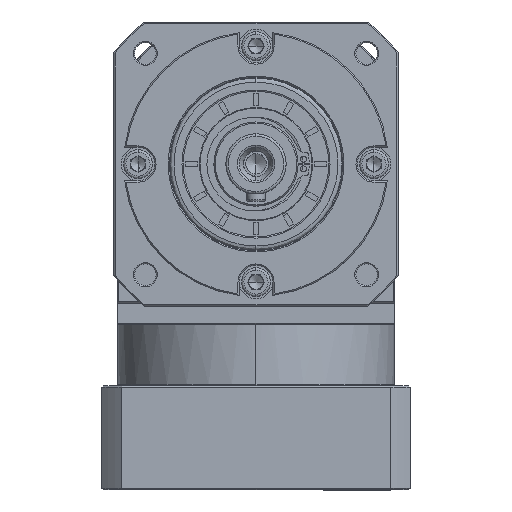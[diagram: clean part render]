
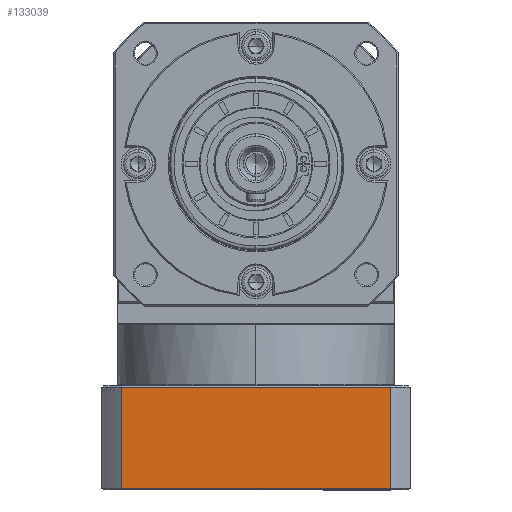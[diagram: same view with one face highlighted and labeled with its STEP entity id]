
A CAD part, top view. The second image highlights one B-rep face of the part: STEP entity #133039.
In plain terms, the highlighted planar face has unit normal (0, 0, 1).
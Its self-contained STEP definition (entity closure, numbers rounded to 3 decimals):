
#10216 = EDGE_CURVE ( 'NONE', #152064, #128707, #89542, .T. ) ;
#11703 = VECTOR ( 'NONE', #163240, 1000. ) ;
#13838 = VECTOR ( 'NONE', #62351, 1000. ) ;
#16666 = CARTESIAN_POINT ( 'NONE',  ( -287.362, -169.837, 71.858 ) ) ;
#33294 = FACE_OUTER_BOUND ( 'NONE', #114718, .T. ) ;
#36742 = VERTEX_POINT ( 'NONE', #146444 ) ;
#38493 = PLANE ( 'NONE',  #156545 ) ;
#40748 = DIRECTION ( 'NONE',  ( 0., 0., -1. ) ) ;
#44070 = VECTOR ( 'NONE', #123887, 1000. ) ;
#51472 = CARTESIAN_POINT ( 'NONE',  ( -279.299, -169.837, 71.858 ) ) ;
#62351 = DIRECTION ( 'NONE',  ( 0., 1., 0. ) ) ;
#64854 = DIRECTION ( 'NONE',  ( 1., 0., 0. ) ) ;
#65598 = ORIENTED_EDGE ( 'NONE', *, *, #147586, .F. ) ;
#83846 = CARTESIAN_POINT ( 'NONE',  ( -167.425, 125.577, 71.858 ) ) ;
#89045 = VECTOR ( 'NONE', #64854, 1000. ) ;
#89154 = ORIENTED_EDGE ( 'NONE', *, *, #147333, .F. ) ;
#89542 = LINE ( 'NONE', #51472, #13838 ) ;
#96973 = CARTESIAN_POINT ( 'NONE',  ( -279.299, -127.337, 71.858 ) ) ;
#101978 = EDGE_CURVE ( 'NONE', #36742, #152064, #122202, .T. ) ;
#105942 = DIRECTION ( 'NONE',  ( -1., 0., 0. ) ) ;
#111184 = CARTESIAN_POINT ( 'NONE',  ( -167.425, -127.337, 71.858 ) ) ;
#114718 = EDGE_LOOP ( 'NONE', ( #89154, #65598, #142482, #133824 ) ) ;
#122202 = LINE ( 'NONE', #148332, #11703 ) ;
#123887 = DIRECTION ( 'NONE',  ( 0., -1., 0. ) ) ;
#128707 = VERTEX_POINT ( 'NONE', #96973 ) ;
#131402 = VERTEX_POINT ( 'NONE', #111184 ) ;
#133039 = ADVANCED_FACE ( 'NONE', ( #33294 ), #38493, .F. ) ;
#133824 = ORIENTED_EDGE ( 'NONE', *, *, #101978, .F. ) ;
#136216 = LINE ( 'NONE', #142157, #89045 ) ;
#142157 = CARTESIAN_POINT ( 'NONE',  ( -287.362, -127.337, 71.858 ) ) ;
#142482 = ORIENTED_EDGE ( 'NONE', *, *, #10216, .F. ) ;
#146444 = CARTESIAN_POINT ( 'NONE',  ( -167.425, -169.337, 71.858 ) ) ;
#147333 = EDGE_CURVE ( 'NONE', #131402, #36742, #156811, .T. ) ;
#147586 = EDGE_CURVE ( 'NONE', #128707, #131402, #136216, .T. ) ;
#148332 = CARTESIAN_POINT ( 'NONE',  ( -287.362, -169.337, 71.858 ) ) ;
#152064 = VERTEX_POINT ( 'NONE', #155416 ) ;
#155416 = CARTESIAN_POINT ( 'NONE',  ( -279.299, -169.337, 71.858 ) ) ;
#156545 = AXIS2_PLACEMENT_3D ( 'NONE', #16666, #40748, #105942 ) ;
#156811 = LINE ( 'NONE', #83846, #44070 ) ;
#163240 = DIRECTION ( 'NONE',  ( -1., 0., 0. ) ) ;
